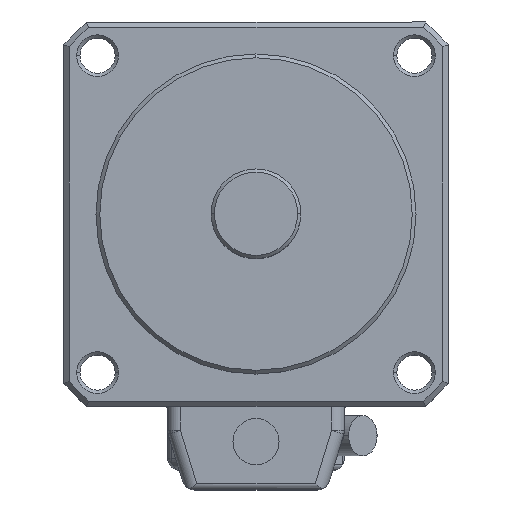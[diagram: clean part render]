
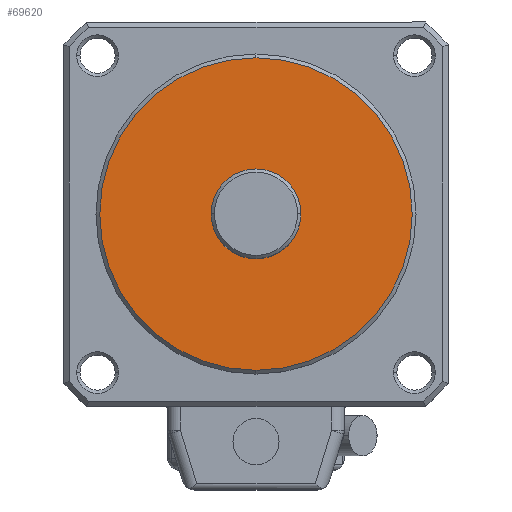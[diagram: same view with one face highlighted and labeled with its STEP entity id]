
A CAD part, top view. The second image highlights one B-rep face of the part: STEP entity #69620.
In plain terms, the highlighted planar face has unit normal (0, 0, 1).
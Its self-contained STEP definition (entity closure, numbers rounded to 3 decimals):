
#69230=CARTESIAN_POINT('',(-24.4,-24.4,-19.));
#69240=DIRECTION('',(0.,0.,1.));
#69250=DIRECTION('',(1.,0.,0.));
#69260=AXIS2_PLACEMENT_3D('',#69230,#69240,#69250);
#69270=PLANE('',#69260);
#69280=CARTESIAN_POINT('',(0.,0.,
-19.));
#69290=DIRECTION('',(0.,0.,1.));
#69300=DIRECTION('',(1.,0.,0.));
#69310=AXIS2_PLACEMENT_3D('',#69280,#69290,#69300);
#69320=CIRCLE('',#69310,7.);
#69330=CARTESIAN_POINT('',(-7.,0.,-19.));
#69340=VERTEX_POINT('',#69330);
#69350=CARTESIAN_POINT('',(7.,0.,-19.));
#69360=VERTEX_POINT('',#69350);
#69370=EDGE_CURVE('',#69340,#69360,#69320,.T.);
#69380=ORIENTED_EDGE('',*,*,#69370,.F.);
#69390=EDGE_CURVE('',#69360,#69340,#69320,.T.);
#69400=ORIENTED_EDGE('',*,*,#69390,.F.);
#69410=EDGE_LOOP('',(#69400,#69380));
#69420=FACE_BOUND('',#69410,.T.);
#69430=CARTESIAN_POINT('',(0.,0.,
-19.));
#69440=DIRECTION('',(0.,0.,1.));
#69450=DIRECTION('',(0.,-1.,0.));
#69460=AXIS2_PLACEMENT_3D('',#69430,#69440,#69450);
#69470=CIRCLE('',#69460,24.4);
#69480=CARTESIAN_POINT('',(0.,24.4,-19.));
#69490=VERTEX_POINT('',#69480);
#69500=CARTESIAN_POINT('',(0.,-24.4,-19.));
#69510=VERTEX_POINT('',#69500);
#69520=EDGE_CURVE('',#69490,#69510,#69470,.T.);
#69530=ORIENTED_EDGE('',*,*,#69520,.T.);
#69540=CARTESIAN_POINT('',(24.4,0.,-19.));
#69550=VERTEX_POINT('',#69540);
#69560=EDGE_CURVE('',#69550,#69490,#69470,.T.);
#69570=ORIENTED_EDGE('',*,*,#69560,.T.);
#69580=EDGE_CURVE('',#69510,#69550,#69470,.T.);
#69590=ORIENTED_EDGE('',*,*,#69580,.T.);
#69600=EDGE_LOOP('',(#69590,#69570,#69530));
#69610=FACE_OUTER_BOUND('',#69600,.T.);
#69620=ADVANCED_FACE('',(#69420,#69610),#69270,.T.);
